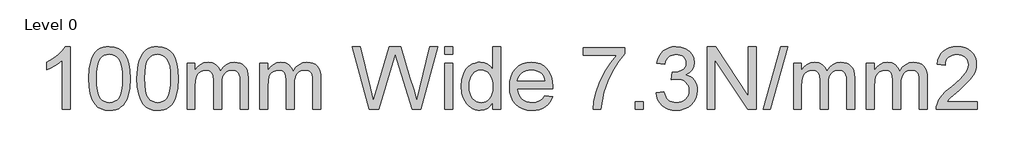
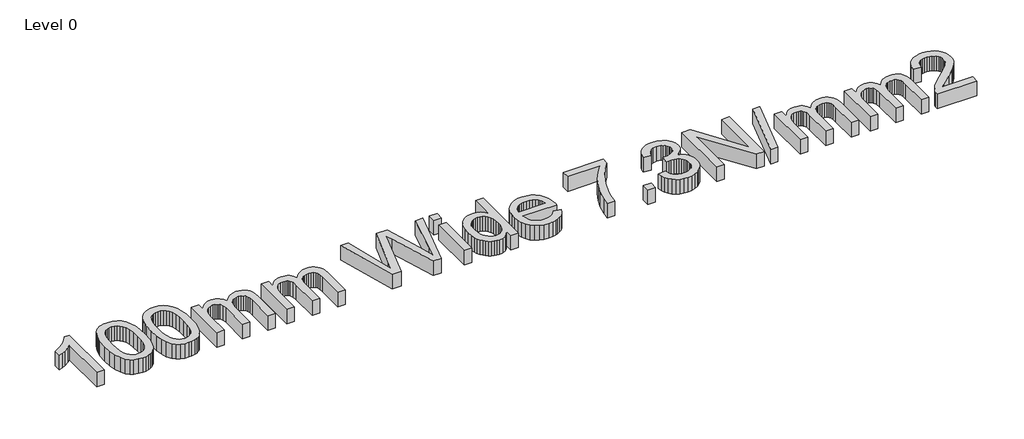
# One storey, part 4 of 14: 1 proxy.
"""IFC4 building model written with IfcOpenShell, lengths in millimetres."""

from ifc_helpers import new_model, si_unit, origin, origin_with_axes, place, context, project, spatial, polyline, outline, extrude, element, save

model = new_model("IFC4")

# Units and contexts
model_context = context("Model", 3, world=origin())
ifc_project = project(units=[si_unit("LENGTHUNIT", "METRE", prefix="MILLI")], contexts=[model_context])

# Site, building, storey
site = spatial("IfcSite", under=ifc_project)
building = spatial("IfcBuilding", under=site)
storey = spatial("IfcBuildingStorey", under=building, Name="Level 0", Elevation=0.0)

# Proxy
placement = place(None, origin())
element("IfcBuildingElementProxy", 1, Name="600mm Arial", ObjectType="600mm Arial", at=placement, inside=storey, context=model_context, shape_type="SweptSolid", body=[
    extrude(outline(polyline([(-37768.4580607, 12116.0930494), (-37842.3042146, 12116.0930494), (-37842.3042146, 12576.4776648), (-37873.1335415, 12551.5437706), (-37912.2561376, 12526.645934), (-37953.3258492, 12504.8851167), (-37989.9965222, 12489.3622802), (-37989.9965222, 12559.1699725), (-37931.9977242, 12590.7204533), (-37881.7513299, 12628.256511), (-37842.1419549, 12668.1723763), (-37816.0542146, 12706.8622802), (-37768.4580607, 12706.8622802), (-37768.4580607, 12116.0930494)])), origin_with_axes(), (0.0, 0.0, 1.0), 150.0),
    extrude(outline(polyline([(-37593.0734453, 12406.7180494), (-37587.6467626, 12501.2793475), (-37580.8634093, 12541.3800086), (-37571.3667146, 12576.694011), (-37559.1972434, 12607.5098162), (-37544.3955607, 12634.115886), (-37526.9616665, 12656.5122201), (-37506.8955607, 12674.6988186), (-37484.1296352, 12688.7703331), (-37458.5962819, 12698.8214148), (-37430.2955006, 12704.8520638), (-37399.2272915, 12706.8622802), (-37353.7224838, 12702.1026648), (-37312.9772915, 12687.8238186), (-37278.9027722, 12664.584636), (-37253.4099838, 12632.944011), (-37234.1551761, 12593.1723763), (-37218.7945992, 12545.5401648), (-37208.734503, 12485.053386), (-37205.3811376, 12406.7180494), (-37210.7537338, 12312.6976167), (-37217.469479, 12272.732172), (-37226.8715222, 12237.4632417), (-37238.946342, 12206.6339148), (-37253.6804165, 12179.9872802), (-37271.0737458, 12157.5233379), (-37291.1263299, 12139.2420879), (-37313.9192987, 12125.075922), (-37339.5337819, 12114.9572321), (-37367.9697795, 12108.8860182), (-37399.2272915, 12106.8622802), (-37439.9003684, 12110.3779052), (-37475.9580607, 12120.9247802), (-37507.4003684, 12138.5029052), (-37534.2272915, 12163.1122802), (-37559.9724838, 12207.5984581), (-37578.3619069, 12263.0281456), (-37589.3955607, 12329.4013427), (-37593.0734453, 12406.7180494)]), holes=[polyline([(-37519.2272915, 12406.8622802), (-37517.0638299, 12342.6660662), (-37510.5734453, 12290.7024244), (-37499.7561376, 12250.9713547), (-37484.6119069, 12223.4728571), (-37466.2945992, 12204.763422), (-37445.9580607, 12191.3995398), (-37423.6022915, 12183.3812105), (-37399.2272915, 12180.708434), (-37374.8522915, 12183.3902249), (-37352.4965222, 12191.4355975), (-37332.1599838, 12204.8445518), (-37313.8426761, 12223.6170879), (-37298.6984453, 12251.1606576), (-37287.8811376, 12290.8827129), (-37281.390753, 12342.7832537), (-37279.2272915, 12406.8622802), (-37281.3186376, 12469.3592754), (-37287.5926761, 12520.4079533), (-37298.0494069, 12560.0083138), (-37312.6888299, 12588.1603571), (-37330.6996472, 12607.7847561), (-37351.2705607, 12621.802184), (-37374.4015703, 12630.2126408), (-37400.0926761, 12633.0161263), (-37424.3414742, 12630.5461744), (-37446.3186376, 12623.1363186), (-37466.0241665, 12610.786559), (-37483.4580607, 12593.4968956), (-37499.1070992, 12562.8478571), (-37510.2849838, 12521.5257417), (-37516.9917146, 12469.5305494), (-37519.2272915, 12406.8622802)])]), origin_with_axes(), (0.0, 0.0, 1.0), 150.0),
    extrude(outline(polyline([(-37140.765753, 12406.7180494), (-37135.3390703, 12501.2793475), (-37128.555717, 12541.3800086), (-37119.0590222, 12576.694011), (-37106.8895511, 12607.5098162), (-37092.0878684, 12634.115886), (-37074.6539742, 12656.5122201), (-37054.5878684, 12674.6988186), (-37031.8219429, 12688.7703331), (-37006.2885896, 12698.8214148), (-36977.9878083, 12704.8520638), (-36946.9195992, 12706.8622802), (-36901.4147915, 12702.1026648), (-36860.6695992, 12687.8238186), (-36826.5950799, 12664.584636), (-36801.1022915, 12632.944011), (-36781.8474838, 12593.1723763), (-36766.4869069, 12545.5401648), (-36756.4268107, 12485.053386), (-36753.0734453, 12406.7180494), (-36758.4460415, 12312.6976167), (-36765.1617867, 12272.732172), (-36774.5638299, 12237.4632417), (-36786.6386497, 12206.6339148), (-36801.3727242, 12179.9872802), (-36818.7660535, 12157.5233379), (-36838.8186376, 12139.2420879), (-36861.6116064, 12125.075922), (-36887.2260896, 12114.9572321), (-36915.6620872, 12108.8860182), (-36946.9195992, 12106.8622802), (-36987.5926761, 12110.3779052), (-37023.6503684, 12120.9247802), (-37055.0926761, 12138.5029052), (-37081.9195992, 12163.1122802), (-37107.6647915, 12207.5984581), (-37126.0542146, 12263.0281456), (-37137.0878684, 12329.4013427), (-37140.765753, 12406.7180494)]), holes=[polyline([(-37066.9195992, 12406.8622802), (-37064.7561376, 12342.6660662), (-37058.265753, 12290.7024244), (-37047.4484453, 12250.9713547), (-37032.3042146, 12223.4728571), (-37013.9869069, 12204.763422), (-36993.6503684, 12191.3995398), (-36971.2945992, 12183.3812105), (-36946.9195992, 12180.708434), (-36922.5445992, 12183.3902249), (-36900.1888299, 12191.4355975), (-36879.8522915, 12204.8445518), (-36861.5349838, 12223.6170879), (-36846.390753, 12251.1606576), (-36835.5734453, 12290.8827129), (-36829.0830607, 12342.7832537), (-36826.9195992, 12406.8622802), (-36829.0109453, 12469.3592754), (-36835.2849838, 12520.4079533), (-36845.7417146, 12560.0083138), (-36860.3811376, 12588.1603571), (-36878.3919549, 12607.7847561), (-36898.9628684, 12621.802184), (-36922.093878, 12630.2126408), (-36947.7849838, 12633.0161263), (-36972.0337819, 12630.5461744), (-36994.0109453, 12623.1363186), (-37013.7164742, 12610.786559), (-37031.1503684, 12593.4968956), (-37046.7994069, 12562.8478571), (-37057.9772915, 12521.5257417), (-37064.6840222, 12469.5305494), (-37066.9195992, 12406.8622802)])]), origin_with_axes(), (0.0, 0.0, 1.0), 150.0),
    extrude(outline(polyline([(-36669.9965222, 12116.0930494), (-36669.9965222, 12549.9392033), (-36596.1503684, 12549.9392033), (-36596.1503684, 12478.5449725), (-36573.9388299, 12511.3394436), (-36545.3811376, 12537.0305494), (-36511.4508492, 12553.6351167), (-36473.1215222, 12559.1699725), (-36432.0518107, 12553.5269436), (-36414.5728444, 12546.4731576), (-36399.1311376, 12536.5978571), (-36374.5397915, 12509.5005013), (-36358.4580607, 12473.3526648), (-36331.5409934, 12510.8977369), (-36300.8378684, 12537.7156456), (-36266.3486857, 12553.8063908), (-36228.0734453, 12559.1699725), (-36198.5106448, 12556.9389028), (-36172.562628, 12550.2456936), (-36150.2293948, 12539.0903451), (-36131.5109453, 12523.4728571), (-36116.7137698, 12503.2129412), (-36106.1443588, 12478.130309), (-36099.8027122, 12448.2249605), (-36097.6888299, 12413.4968956), (-36097.6888299, 12116.0930494), (-36171.5349838, 12116.0930494), (-36171.5349838, 12381.7661263), (-36173.2477242, 12418.599059), (-36178.3859453, 12443.4247802), (-36188.0133492, 12460.4259821), (-36203.1936376, 12473.7853571), (-36222.718878, 12482.4392033), (-36245.3811376, 12485.3238186), (-36266.3081208, 12483.4758619), (-36285.3871472, 12477.9319917), (-36302.618217, 12468.6922081), (-36318.0013299, 12455.756511), (-36330.6530727, 12438.7462946), (-36339.6900319, 12417.2829533), (-36345.1122073, 12391.3664869), (-36346.9195992, 12360.9968956), (-36346.9195992, 12116.0930494), (-36420.765753, 12116.0930494), (-36420.765753, 12389.9872802), (-36425.0385896, 12431.7420879), (-36437.8570992, 12461.5257417), (-36447.7684573, 12471.9374004), (-36460.4111857, 12479.3742994), (-36475.7852843, 12483.8364388), (-36493.890753, 12485.3238186), (-36522.3402722, 12481.3574725), (-36548.5542146, 12469.458434), (-36570.1888299, 12449.9151648), (-36584.9003684, 12423.0161263), (-36593.3378684, 12385.6964148), (-36596.1503684, 12334.8911263), (-36596.1503684, 12116.0930494), (-36669.9965222, 12116.0930494)])), origin_with_axes(), (0.0, 0.0, 1.0), 150.0),
    extrude(outline(polyline([(-35986.9195992, 12116.0930494), (-35986.9195992, 12549.9392033), (-35913.0734453, 12549.9392033), (-35913.0734453, 12478.5449725), (-35890.8619069, 12511.3394436), (-35862.3042146, 12537.0305494), (-35828.3739261, 12553.6351167), (-35790.0445992, 12559.1699725), (-35748.9748876, 12553.5269436), (-35731.4959213, 12546.4731576), (-35716.0542146, 12536.5978571), (-35691.4628684, 12509.5005013), (-35675.3811376, 12473.3526648), (-35648.4640703, 12510.8977369), (-35617.7609453, 12537.7156456), (-35583.2717626, 12553.8063908), (-35544.9965222, 12559.1699725), (-35515.4337218, 12556.9389028), (-35489.4857049, 12550.2456936), (-35467.1524718, 12539.0903451), (-35448.4340222, 12523.4728571), (-35433.6368468, 12503.2129412), (-35423.0674357, 12478.130309), (-35416.7257891, 12448.2249605), (-35414.6119069, 12413.4968956), (-35414.6119069, 12116.0930494), (-35488.4580607, 12116.0930494), (-35488.4580607, 12381.7661263), (-35490.1708011, 12418.599059), (-35495.3090222, 12443.4247802), (-35504.9364261, 12460.4259821), (-35520.1167146, 12473.7853571), (-35539.6419549, 12482.4392033), (-35562.3042146, 12485.3238186), (-35583.2311977, 12483.4758619), (-35602.3102242, 12477.9319917), (-35619.5412939, 12468.6922081), (-35634.9244069, 12455.756511), (-35647.5761497, 12438.7462946), (-35656.6131088, 12417.2829533), (-35662.0352843, 12391.3664869), (-35663.8426761, 12360.9968956), (-35663.8426761, 12116.0930494), (-35737.6888299, 12116.0930494), (-35737.6888299, 12389.9872802), (-35741.9616665, 12431.7420879), (-35754.7801761, 12461.5257417), (-35764.6915343, 12471.9374004), (-35777.3342626, 12479.3742994), (-35792.7083612, 12483.8364388), (-35810.8138299, 12485.3238186), (-35839.2633492, 12481.3574725), (-35865.4772915, 12469.458434), (-35887.1119069, 12449.9151648), (-35901.8234453, 12423.0161263), (-35910.2609453, 12385.6964148), (-35913.0734453, 12334.8911263), (-35913.0734453, 12116.0930494), (-35986.9195992, 12116.0930494)])), origin_with_axes(), (0.0, 0.0, 1.0), 150.0),
    extrude(outline(polyline([(-34958.1215222, 12116.0930494), (-35119.2272915, 12706.8622802), (-35043.0734453, 12706.8622802), (-34949.6119069, 12318.5930494), (-34920.765753, 12198.7372802), (-34889.9003684, 12304.7468956), (-34772.7849838, 12706.8622802), (-34663.0253684, 12706.8622802), (-34577.9292146, 12415.3718956), (-34541.4748876, 12307.1988186), (-34514.6119069, 12198.7372802), (-34486.6311376, 12315.131511), (-34392.3042146, 12706.8622802), (-34316.1503684, 12706.8622802), (-34477.4003684, 12116.0930494), (-34556.2945992, 12116.0930494), (-34697.9292146, 12571.8622802), (-34717.6888299, 12635.4680494), (-34739.9003684, 12558.881511), (-34868.9869069, 12116.0930494), (-34958.1215222, 12116.0930494)])), origin_with_axes(), (0.0, 0.0, 1.0), 150.0),
    extrude(outline(polyline([(-34251.5349838, 12116.0930494), (-34251.5349838, 12549.9392033), (-34177.6888299, 12549.9392033), (-34177.6888299, 12116.0930494), (-34251.5349838, 12116.0930494)])), origin_with_axes(), (0.0, 0.0, 1.0), 150.0),
    extrude(outline(polyline([(-34251.5349838, 12633.0161263), (-34251.5349838, 12706.8622802), (-34177.6888299, 12706.8622802), (-34177.6888299, 12633.0161263), (-34251.5349838, 12633.0161263)])), origin_with_axes(), (0.0, 0.0, 1.0), 150.0),
    extrude(outline(polyline([(-33799.2272915, 12116.0930494), (-33799.2272915, 12185.756511), (-33821.3216424, 12151.240285), (-33848.0854646, 12126.5858379), (-33879.5187578, 12111.7931696), (-33915.6215222, 12106.8622802), (-33939.9965222, 12108.647136), (-33963.3619069, 12114.0017033), (-33985.7176761, 12122.9259821), (-34007.0638299, 12135.4199725), (-34026.7333011, 12151.1095759), (-34044.0590222, 12169.6206936), (-34059.0409934, 12190.9533259), (-34071.6792146, 12215.1074725), (-34081.7122674, 12241.623398), (-34088.8787338, 12270.0413667), (-34094.6119069, 12332.583434), (-34089.3294549, 12394.350261), (-34073.4820992, 12450.131511), (-34061.6010896, 12474.9842754), (-34047.0878684, 12496.7541071), (-34029.9424357, 12515.4410061), (-34010.1647915, 12531.0449725), (-33988.4535535, 12543.34966), (-33965.5073396, 12552.1387225), (-33941.3261497, 12557.41216), (-33915.9099838, 12559.1699725), (-33879.7801761, 12554.1399244), (-33847.8330607, 12539.0497802), (-33820.7537338, 12515.9187706), (-33799.2272915, 12486.7661263), (-33799.2272915, 12706.8622802), (-33725.3811376, 12706.8622802), (-33725.3811376, 12116.0930494), (-33799.2272915, 12116.0930494)]), holes=[polyline([(-34020.765753, 12332.8718956), (-34018.6834213, 12297.0620999), (-34012.4364261, 12266.0750206), (-34002.0247674, 12239.9106576), (-33987.4484453, 12218.569011), (-33970.0415944, 12202.0050086), (-33951.1383492, 12190.1735783), (-33930.7387097, 12183.0747201), (-33908.8426761, 12180.708434), (-33886.8429766, 12182.966547), (-33866.5650319, 12189.740886), (-33848.008842, 12201.0314509), (-33831.1744069, 12216.8382417), (-33817.1975439, 12237.2874605), (-33807.2140703, 12262.505309), (-33801.2239862, 12292.4917874), (-33799.2272915, 12327.2468956), (-33801.2600439, 12365.3508619), (-33807.3583011, 12398.0281456), (-33817.5220631, 12425.2787465), (-33831.7513299, 12447.1026648), (-33848.9553564, 12463.8244196), (-33868.0433972, 12475.7685302), (-33889.0154525, 12482.9349965), (-33911.8715222, 12485.3238186), (-33934.2002482, 12483.029648), (-33954.5998876, 12476.147136), (-33973.0704405, 12464.6762826), (-33989.6119069, 12448.6170879), (-34003.2417146, 12427.6179893), (-34012.9772915, 12401.3274244), (-34018.8186376, 12369.7453932), (-34020.765753, 12332.8718956)])]), origin_with_axes(), (0.0, 0.0, 1.0), 150.0),
    extrude(outline(polyline([(-33310.8619069, 12245.3238186), (-33238.4580607, 12236.0930494), (-33249.5593227, 12207.0936504), (-33264.5458011, 12181.537761), (-33283.4174958, 12159.4253811), (-33306.1744069, 12140.756511), (-33332.5821593, 12125.927785), (-33362.406378, 12115.3358379), (-33395.6470631, 12108.9806696), (-33432.3042146, 12106.8622802), (-33478.1245271, 12110.5176287), (-33518.9508492, 12121.4836744), (-33554.7831809, 12139.7604172), (-33585.6215222, 12165.3478571), (-33610.4202001, 12197.5338547), (-33628.1335415, 12235.6062706), (-33638.7615463, 12279.5651047), (-33642.3042146, 12329.4103571), (-33638.7254886, 12380.9458138), (-33627.9893107, 12426.3694917), (-33610.0956809, 12465.6813908), (-33585.0445992, 12498.881511), (-33554.2873876, 12525.2577129), (-33519.2753684, 12544.0978571), (-33480.0085415, 12555.4019436), (-33436.4869069, 12559.1699725), (-33394.367015, 12555.4109581), (-33356.2765703, 12544.1339148), (-33322.2155727, 12525.3388427), (-33292.1840222, 12499.0257417), (-33267.6692987, 12465.8977369), (-33250.1587819, 12426.6579533), (-33239.6524718, 12381.3063908), (-33236.1503684, 12329.8430494), (-33236.5830607, 12309.9392033), (-33568.4580607, 12309.9392033), (-33564.180717, 12280.4710542), (-33555.6756088, 12254.662761), (-33542.9427362, 12232.5143235), (-33525.9820992, 12214.0257417), (-33505.7311977, 12199.4494196), (-33483.1275319, 12189.037761), (-33458.1711016, 12182.7907658), (-33430.8619069, 12180.708434), (-33391.5590222, 12184.5666071), (-33358.4580607, 12196.1411263), (-33331.5590222, 12216.1531456), (-33310.8619069, 12245.3238186)]), holes=[polyline([(-33568.4580607, 12383.7853571), (-33309.9965222, 12383.7853571), (-33319.984503, 12422.7997802), (-33328.5752482, 12438.1423283), (-33339.5638299, 12450.708434), (-33359.7020511, 12465.8526648), (-33382.6167146, 12476.6699725), (-33408.3078203, 12483.1603571), (-33436.7753684, 12485.3238186), (-33462.7414141, 12483.5975566), (-33486.5530126, 12478.4187706), (-33508.2101641, 12469.7874605), (-33527.7128684, 12457.7036263), (-33544.0785535, 12442.7261624), (-33556.3246472, 12425.4139629), (-33564.4511497, 12405.7670278), (-33568.4580607, 12383.7853571)])]), origin_with_axes(), (0.0, 0.0, 1.0), 150.0),
    extrude(outline(polyline([(-32949.9965222, 12623.7853571), (-32949.9965222, 12697.631511), (-32562.3042146, 12697.631511), (-32562.3042146, 12637.9199725), (-32617.562628, 12567.9860783), (-32672.2801761, 12479.0497802), (-32720.5433972, 12379.224059), (-32756.4388299, 12276.6218956), (-32774.0349838, 12199.8550686), (-32783.8426761, 12116.0930494), (-32857.6888299, 12116.0930494), (-32849.7020511, 12192.2108379), (-32828.3378684, 12282.6795879), (-32794.1732049, 12378.5750206), (-32747.7849838, 12470.9728571), (-32693.6263299, 12554.5005013), (-32636.1503684, 12623.7853571), (-32949.9965222, 12623.7853571)])), origin_with_axes(), (0.0, 0.0, 1.0), 150.0),
    extrude(outline(polyline([(-32460.765753, 12116.0930494), (-32460.765753, 12189.9392033), (-32386.9195992, 12189.9392033), (-32386.9195992, 12116.0930494), (-32460.765753, 12116.0930494)])), origin_with_axes(), (0.0, 0.0, 1.0), 150.0),
    extrude(outline(polyline([(-32266.9195992, 12273.0161263), (-32193.0734453, 12282.2468956), (-32176.5409934, 12235.8406456), (-32165.3946593, 12218.2895638), (-32152.328253, 12204.506511), (-32137.0442987, 12194.0948523), (-32119.2453203, 12186.6579533), (-32098.9313179, 12182.1958138), (-32076.1022915, 12180.708434), (-32049.3474838, 12182.7547081), (-32025.4772915, 12188.8935302), (-32004.4917146, 12199.1249004), (-31986.390753, 12213.4488186), (-31971.8144309, 12230.7925686), (-31961.4027722, 12250.083434), (-31955.1557771, 12271.3214148), (-31953.0734453, 12294.506511), (-31955.1377482, 12316.5873403), (-31961.3306569, 12336.6759821), (-31971.6521713, 12354.7724364), (-31986.1022915, 12370.8767033), (-32003.734503, 12384.0963547), (-32023.6022915, 12393.5389629), (-32045.7056569, 12399.2045278), (-32070.0445992, 12401.0930494), (-32093.3739261, 12399.0738186), (-32121.8234453, 12393.0161263), (-32113.6022915, 12466.8622802), (-32101.7753684, 12465.9968956), (-32057.5325799, 12471.2973763), (-32017.9772915, 12487.1988186), (-32001.6972434, 12499.224059), (-31990.0686376, 12514.0978571), (-31983.0914742, 12531.8202129), (-31980.765753, 12552.3911263), (-31982.4514501, 12569.0903451), (-31987.5085415, 12584.2841552), (-31995.9370271, 12597.9725566), (-32007.7369069, 12610.1555494), (-32022.1960415, 12620.1570518), (-32038.6022915, 12627.3009821), (-32077.2561376, 12633.0161263), (-32115.9820992, 12627.2468956), (-32132.6948396, 12620.0353571), (-32147.640753, 12609.9392033), (-32160.4502482, 12596.958434), (-32170.7537338, 12581.0930494), (-32178.5512097, 12562.3430494), (-32183.8426761, 12540.708434), (-32257.6888299, 12549.9392033), (-32248.9358251, 12585.1946119), (-32235.9460415, 12616.2492994), (-32218.719479, 12643.1032658), (-32197.2561376, 12665.756511), (-32172.2320992, 12683.740285), (-32144.3234453, 12696.5858379), (-32113.5301761, 12704.2931696), (-32079.8522915, 12706.8622802), (-32033.4280126, 12701.7961744), (-31990.7897915, 12686.5978571), (-31954.8402722, 12662.6194917), (-31928.4820992, 12631.2132417), (-31912.3102242, 12595.0293475), (-31906.9195992, 12556.7180494), (-31912.0397915, 12521.020934), (-31927.4003684, 12488.6411263), (-31952.7849838, 12461.0569917), (-31987.9772915, 12439.7468956), (-31963.3679165, 12432.0485783), (-31941.7513299, 12421.069011), (-31923.1275319, 12406.8081936), (-31907.4965222, 12389.2661263), (-31895.1287338, 12368.8755013), (-31886.2945992, 12346.069011), (-31880.9941184, 12320.8466552), (-31879.2272915, 12293.208434), (-31882.7609453, 12255.7444917), (-31893.3619069, 12221.2372802), (-31911.0301761, 12189.6867994), (-31935.765753, 12161.0930494), (-31965.9009694, 12137.3670879), (-31999.7681569, 12120.4199725), (-32037.3673155, 12110.2517033), (-32078.6984453, 12106.8622802), (-32116.0542146, 12109.75591), (-32150.0926761, 12118.4367994), (-32180.8138299, 12132.9049485), (-32208.2176761, 12153.1603571), (-32231.1954405, 12178.0131215), (-32248.6383492, 12206.2733379), (-32260.5464021, 12237.9410061), (-32266.9195992, 12273.0161263)])), origin_with_axes(), (0.0, 0.0, 1.0), 150.0),
    extrude(outline(polyline([(-31786.9195992, 12116.0930494), (-31786.9195992, 12706.8622802), (-31707.8811376, 12706.8622802), (-31399.2272915, 12238.833434), (-31399.2272915, 12706.8622802), (-31325.3811376, 12706.8622802), (-31325.3811376, 12116.0930494), (-31404.4195992, 12116.0930494), (-31713.0734453, 12584.2661263), (-31713.0734453, 12116.0930494), (-31786.9195992, 12116.0930494)])), origin_with_axes(), (0.0, 0.0, 1.0), 150.0),
    extrude(outline(polyline([(-31260.765753, 12116.0930494), (-31094.6119069, 12706.8622802), (-31027.9772915, 12706.8622802), (-31194.1311376, 12116.0930494), (-31260.765753, 12116.0930494)])), origin_with_axes(), (0.0, 0.0, 1.0), 150.0),
    extrude(outline(polyline([(-30974.6119069, 12116.0930494), (-30974.6119069, 12549.9392033), (-30900.765753, 12549.9392033), (-30900.765753, 12478.5449725), (-30878.5542146, 12511.3394436), (-30849.9965222, 12537.0305494), (-30816.0662338, 12553.6351167), (-30777.7369069, 12559.1699725), (-30736.6671953, 12553.5269436), (-30719.188229, 12546.4731576), (-30703.7465222, 12536.5978571), (-30679.1551761, 12509.5005013), (-30663.0734453, 12473.3526648), (-30636.156378, 12510.8977369), (-30605.453253, 12537.7156456), (-30570.9640703, 12553.8063908), (-30532.6888299, 12559.1699725), (-30503.1260295, 12556.9389028), (-30477.1780126, 12550.2456936), (-30454.8447795, 12539.0903451), (-30436.1263299, 12523.4728571), (-30421.3291545, 12503.2129412), (-30410.7597434, 12478.130309), (-30404.4180968, 12448.2249605), (-30402.3042146, 12413.4968956), (-30402.3042146, 12116.0930494), (-30476.1503684, 12116.0930494), (-30476.1503684, 12381.7661263), (-30477.8631088, 12418.599059), (-30483.0013299, 12443.4247802), (-30492.6287338, 12460.4259821), (-30507.8090222, 12473.7853571), (-30527.3342626, 12482.4392033), (-30549.9965222, 12485.3238186), (-30570.9235054, 12483.4758619), (-30590.0025319, 12477.9319917), (-30607.2336016, 12468.6922081), (-30622.6167146, 12455.756511), (-30635.2684573, 12438.7462946), (-30644.3054165, 12417.2829533), (-30649.727592, 12391.3664869), (-30651.5349838, 12360.9968956), (-30651.5349838, 12116.0930494), (-30725.3811376, 12116.0930494), (-30725.3811376, 12389.9872802), (-30729.6539742, 12431.7420879), (-30742.4724838, 12461.5257417), (-30752.383842, 12471.9374004), (-30765.0265703, 12479.3742994), (-30780.4006689, 12483.8364388), (-30798.5061376, 12485.3238186), (-30826.9556569, 12481.3574725), (-30853.1695992, 12469.458434), (-30874.8042146, 12449.9151648), (-30889.515753, 12423.0161263), (-30897.953253, 12385.6964148), (-30900.765753, 12334.8911263), (-30900.765753, 12116.0930494), (-30974.6119069, 12116.0930494)])), origin_with_axes(), (0.0, 0.0, 1.0), 150.0),
    extrude(outline(polyline([(-30291.5349838, 12116.0930494), (-30291.5349838, 12549.9392033), (-30217.6888299, 12549.9392033), (-30217.6888299, 12478.5449725), (-30195.4772915, 12511.3394436), (-30166.9195992, 12537.0305494), (-30132.9893107, 12553.6351167), (-30094.6599838, 12559.1699725), (-30053.5902722, 12553.5269436), (-30036.1113059, 12546.4731576), (-30020.6695992, 12536.5978571), (-29996.078253, 12509.5005013), (-29979.9965222, 12473.3526648), (-29953.0794549, 12510.8977369), (-29922.3763299, 12537.7156456), (-29887.8871472, 12553.8063908), (-29849.6119069, 12559.1699725), (-29820.0491064, 12556.9389028), (-29794.1010896, 12550.2456936), (-29771.7678564, 12539.0903451), (-29753.0494069, 12523.4728571), (-29738.2522314, 12503.2129412), (-29727.6828203, 12478.130309), (-29721.3411737, 12448.2249605), (-29719.2272915, 12413.4968956), (-29719.2272915, 12116.0930494), (-29793.0734453, 12116.0930494), (-29793.0734453, 12381.7661263), (-29794.7861857, 12418.599059), (-29799.9244069, 12443.4247802), (-29809.5518107, 12460.4259821), (-29824.7320992, 12473.7853571), (-29844.2573396, 12482.4392033), (-29866.9195992, 12485.3238186), (-29887.8465823, 12483.4758619), (-29906.9256088, 12477.9319917), (-29924.1566785, 12468.6922081), (-29939.5397915, 12455.756511), (-29952.1915343, 12438.7462946), (-29961.2284934, 12417.2829533), (-29966.6506689, 12391.3664869), (-29968.4580607, 12360.9968956), (-29968.4580607, 12116.0930494), (-30042.3042146, 12116.0930494), (-30042.3042146, 12389.9872802), (-30046.5770511, 12431.7420879), (-30059.3955607, 12461.5257417), (-30069.3069189, 12471.9374004), (-30081.9496472, 12479.3742994), (-30097.3237458, 12483.8364388), (-30115.4292146, 12485.3238186), (-30143.8787338, 12481.3574725), (-30170.0926761, 12469.458434), (-30191.7272915, 12449.9151648), (-30206.4388299, 12423.0161263), (-30214.8763299, 12385.6964148), (-30217.6888299, 12334.8911263), (-30217.6888299, 12116.0930494), (-30291.5349838, 12116.0930494)])), origin_with_axes(), (0.0, 0.0, 1.0), 150.0),
    extrude(outline(polyline([(-29248.4580607, 12189.9392033), (-29248.4580607, 12116.0930494), (-29636.1503684, 12116.0930494), (-29634.5277722, 12142.0906456), (-29628.2176761, 12167.006511), (-29610.0085415, 12206.7961744), (-29583.3619069, 12245.395934), (-29544.8162338, 12285.7985783), (-29490.9099838, 12330.9968956), (-29411.2224838, 12401.7781456), (-29363.4099838, 12454.0257417), (-29349.4646713, 12475.3718956), (-29339.5037338, 12496.4295879), (-29333.5271713, 12517.1988186), (-29331.5349838, 12537.6795879), (-29333.414491, 12556.9479172), (-29339.0530126, 12574.6567513), (-29348.4505487, 12590.8060903), (-29361.6070992, 12605.395934), (-29377.7924958, 12617.4797682), (-29396.2765703, 12626.1110783), (-29417.0593227, 12631.2898643), (-29440.140753, 12633.0161263), (-29464.4571593, 12631.3304292), (-29486.2044549, 12626.2733379), (-29505.38264, 12617.8448523), (-29521.9917146, 12606.0449725), (-29535.4277122, 12591.2703331), (-29545.0866665, 12573.9175686), (-29550.9685775, 12553.9866792), (-29553.0734453, 12531.4776648), (-29626.9195992, 12540.708434), (-29620.5689381, 12578.8304292), (-29609.0169549, 12612.1387225), (-29592.2636497, 12640.6333138), (-29570.3090222, 12664.3142033), (-29543.6578804, 12682.9289869), (-29512.8150319, 12696.225261), (-29477.7804766, 12704.2030254), (-29438.5542146, 12706.8622802), (-29398.97639, 12703.9055494), (-29363.7525319, 12695.0353571), (-29332.88264, 12680.2517033), (-29306.3667146, 12659.5545879), (-29285.07014, 12634.4764629), (-29269.8583011, 12606.5497802), (-29260.7311977, 12575.7745398), (-29257.6888299, 12542.1507417), (-29260.9700799, 12506.8322321), (-29270.8138299, 12472.1267033), (-29288.2837819, 12436.8262225), (-29314.4436376, 12399.7228571), (-29356.1443588, 12355.4259821), (-29420.2369069, 12298.5449725), (-29505.1888299, 12227.5113186), (-29538.5061376, 12189.9392033), (-29248.4580607, 12189.9392033)])), origin_with_axes(), (0.0, 0.0, 1.0), 150.0),
])

save(model, "model.ifc")
